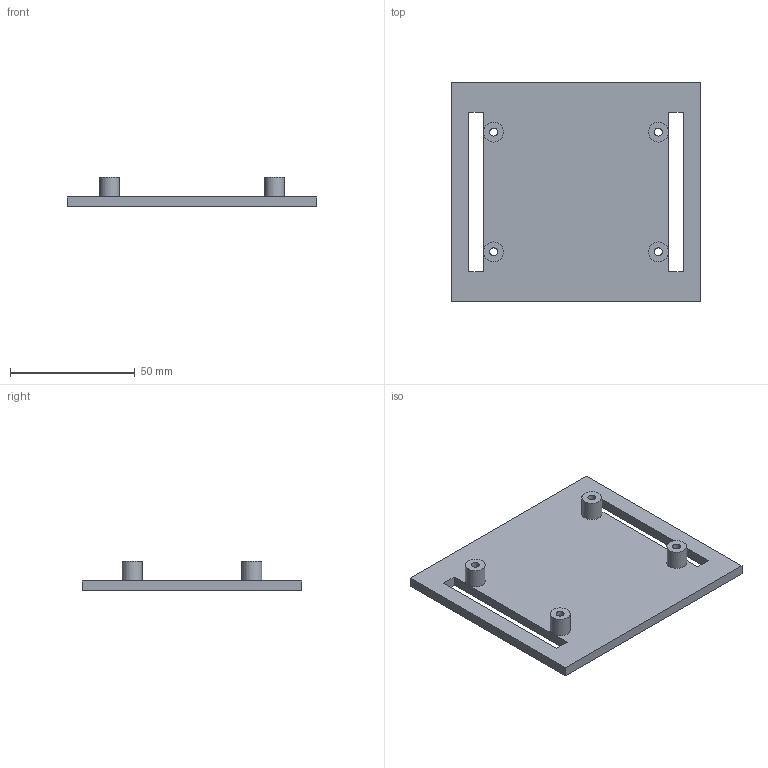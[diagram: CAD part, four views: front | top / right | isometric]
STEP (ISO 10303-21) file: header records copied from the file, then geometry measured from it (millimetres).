
FILE_DESCRIPTION(('Open CASCADE Model'),'2;1');
FILE_NAME('Open CASCADE Shape Model','2026-09-04T19:26:44',('Author'),( 'Open CASCADE'),'Open CASCADE STEP processor 7.9','Open CASCADE 7.9' ,'Unknown');
FILE_SCHEMA(('AUTOMOTIVE_DESIGN { 1 0 10303 214 1 1 1 1 }'));
Length unit declared in the file: millimetre
Products named in the file (1): COMPOUND
Bounding box: 100 x 88 x 12 mm (x, y, z)
Volume: 33350.5 mm3; surface area: 19910.5 mm2
Topology: 1 solids, 1 shells, 26 faces, 66 edges, 42 vertices
Faces by surface type: plane 18, cylinder 8
Full cylindrical faces by diameter (mm): 3.2 x4, 8 x4
Entity records: 1664 total; most frequent: CARTESIAN_POINT 311, DIRECTION 230, ORIENTED_EDGE 132, PCURVE 132, DEFINITIONAL_REPRESENTATION 132, LINE 122, VECTOR 122, EDGE_CURVE 66
